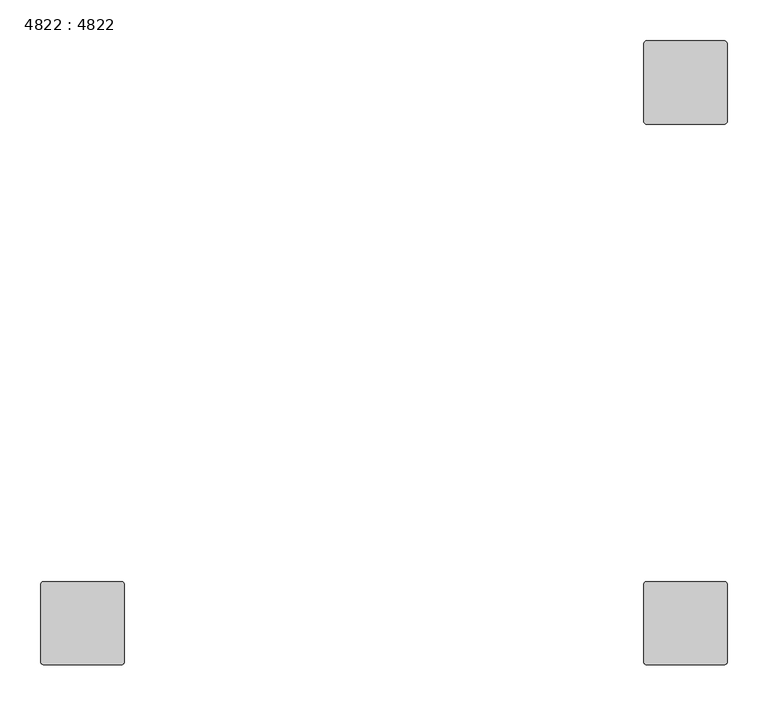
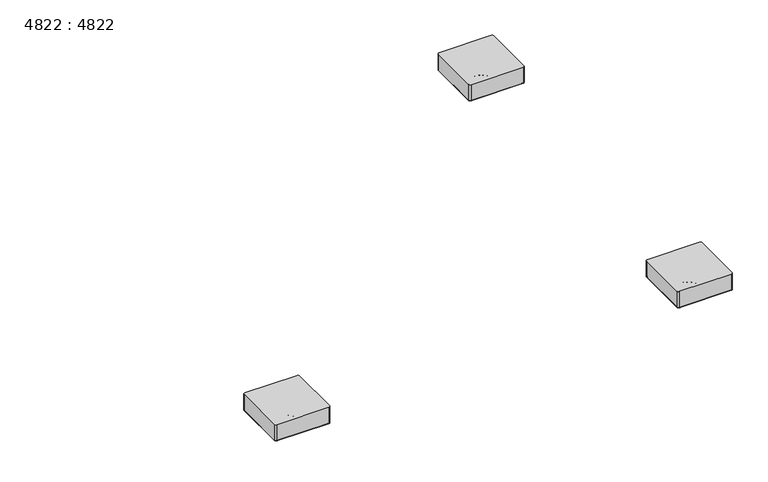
"""IFC4 building model written with IfcOpenShell, lengths in millimetres: furniture geometry, 4822 : 4822."""

from ifc_helpers import new_model, si_unit, point, frame, frame_2d, origin, place, context, project, spatial, polyline, circle_curve, ellipse_curve, trimmed, segment, composite_curve, outline, extrude, source, transform, mapped, element, save
from ifc_brep_helpers import plane_surface, cylinder_surface, revolved_surface, advanced_brep


def furniture_4822_4822_d9f68c8a(model_context):
    return source(origin(), model_context, "Body", "SolidModel", [
        advanced_brep(
        [(-320.675, -698.5, 41.5925), (-415.925, -698.5, 41.5925), (-419.1, -701.675, 41.5925), (-419.1, -796.925, 41.5925), (-415.925, -800.1, 41.5925), (-320.675, -800.1, 41.5925), (-317.5, -796.925, 41.5925), (-317.5, -701.675, 41.5925), (-417.83, -701.675, 11.1125), (-415.925, -699.77, 11.1125), (-320.675, -699.77, 11.1125), (-318.77, -701.675, 11.1125), (-318.77, -796.925, 11.1125), (-320.675, -798.83, 11.1125), (-415.925, -798.83, 11.1125), (-417.83, -796.925, 11.1125), (-320.675, -698.5, 11.1125), (-415.925, -698.5, 11.1125), (-419.1, -701.675, 11.1125), (-419.1, -796.925, 11.1125), (-415.925, -800.1, 11.1125), (-320.675, -800.1, 11.1125), (-317.5, -796.925, 11.1125), (-317.5, -701.675, 11.1125), (-415.925, -699.77, 9.8425), (-417.83, -701.675, 9.8425), (-320.675, -699.77, 9.8425), (-318.77, -701.675, 9.8425), (-318.77, -796.925, 9.8425), (-320.675, -798.83, 9.8425), (-415.925, -798.83, 9.8425), (-417.83, -796.925, 9.8425)],
        [
            (0, 1),
            (1, 2, circle_curve(frame((-415.925, -701.675, 41.5925), z_axis=(0.0, 0.0, 1.0), x_axis=(1.0, 0.0, 0.0)), 3.175)),
            (2, 3),
            (3, 4, circle_curve(frame((-415.925, -796.925, 41.5925), z_axis=(0.0, 0.0, 1.0), x_axis=(1.0, 0.0, 0.0)), 3.175)),
            (4, 5),
            (5, 6, circle_curve(frame((-320.675, -796.925, 41.5925), z_axis=(0.0, 0.0, 1.0), x_axis=(1.0, 0.0, 0.0)), 3.175)),
            (6, 7),
            (7, 0, circle_curve(frame((-320.675, -701.675, 41.5925), z_axis=(0.0, 0.0, 1.0), x_axis=(1.0, 0.0, 0.0)), 3.175)),
            (8, 9, circle_curve(frame((-415.925, -701.675, 11.1125), z_axis=(0.0, 0.0, -1.0), x_axis=(-1.0, 0.0, 0.0)), 1.905)),
            (9, 10),
            (10, 11, circle_curve(frame((-320.675, -701.675, 11.1125), z_axis=(0.0, 0.0, -1.0), x_axis=(0.0, 1.0, 0.0)), 1.905)),
            (11, 12),
            (12, 13, circle_curve(frame((-320.675, -796.925, 11.1125), z_axis=(0.0, 0.0, -1.0), x_axis=(1.0, 0.0, 0.0)), 1.905)),
            (13, 14),
            (14, 15, circle_curve(frame((-415.925, -796.925, 11.1125), z_axis=(0.0, 0.0, -1.0), x_axis=(0.0, -1.0, 0.0)), 1.905)),
            (15, 8),
            (0, 16),
            (16, 17),
            (17, 1),
            (17, 18, circle_curve(frame((-415.925, -701.675, 11.1125), z_axis=(0.0, 0.0, 1.0), x_axis=(1.0, 0.0, 0.0)), 3.175)),
            (18, 2),
            (18, 19),
            (19, 3),
            (19, 20, circle_curve(frame((-415.925, -796.925, 11.1125), z_axis=(0.0, 0.0, 1.0), x_axis=(1.0, 0.0, 0.0)), 3.175)),
            (20, 4),
            (20, 21),
            (21, 5),
            (21, 22, circle_curve(frame((-320.675, -796.925, 11.1125), z_axis=(0.0, 0.0, 1.0), x_axis=(1.0, 0.0, 0.0)), 3.175)),
            (22, 6),
            (22, 23),
            (23, 7),
            (23, 16, circle_curve(frame((-320.675, -701.675, 11.1125), z_axis=(0.0, 0.0, 1.0), x_axis=(1.0, 0.0, 0.0)), 3.175)),
            (24, 25, circle_curve(frame((-415.925, -701.675, 9.8425), z_axis=(0.0, 0.0, 1.0), x_axis=(-1.0, 0.0, 0.0)), 1.905)),
            (25, 18, circle_curve(frame((-417.83, -701.675, 11.1125), z_axis=(0.0, 1.0, 0.0), x_axis=(1.0, 0.0, 0.0)), 1.27)),
            (17, 24, circle_curve(frame((-415.925, -699.77, 11.1125), z_axis=(-1.0, 0.0, 0.0), x_axis=(0.0, -1.0, 0.0)), 1.27)),
            (16, 26, circle_curve(frame((-320.675, -699.77, 11.1125), z_axis=(-1.0, 0.0, 0.0), x_axis=(0.0, -1.0, 0.0)), 1.27)),
            (26, 24),
            (23, 27, circle_curve(frame((-318.77, -701.675, 11.1125), z_axis=(0.0, 1.0, 0.0), x_axis=(-1.0, 0.0, 0.0)), 1.27)),
            (27, 26, circle_curve(frame((-320.675, -701.675, 9.8425), z_axis=(0.0, 0.0, 1.0), x_axis=(0.0, 1.0, 0.0)), 1.905)),
            (22, 28, circle_curve(frame((-318.77, -796.925, 11.1125), z_axis=(0.0, 1.0, 0.0), x_axis=(-1.0, 0.0, 0.0)), 1.27)),
            (28, 27),
            (21, 29, circle_curve(frame((-320.675, -798.83, 11.1125), z_axis=(1.0, 0.0, 0.0), x_axis=(0.0, 1.0, 0.0)), 1.27)),
            (29, 28, circle_curve(frame((-320.675, -796.925, 9.8425), z_axis=(0.0, 0.0, 1.0), x_axis=(1.0, 0.0, 0.0)), 1.905)),
            (20, 30, circle_curve(frame((-415.925, -798.83, 11.1125), z_axis=(1.0, 0.0, 0.0), x_axis=(0.0, 1.0, 0.0)), 1.27)),
            (30, 29),
            (19, 31, circle_curve(frame((-417.83, -796.925, 11.1125), z_axis=(0.0, -1.0, 0.0), x_axis=(1.0, 0.0, 0.0)), 1.27)),
            (31, 30, circle_curve(frame((-415.925, -796.925, 9.8425), z_axis=(0.0, 0.0, 1.0), x_axis=(0.0, -1.0, 0.0)), 1.905)),
            (25, 31),
            (24, 9),
            (8, 25),
            (26, 10),
            (27, 11),
            (28, 12),
            (29, 13),
            (30, 14),
            (31, 15),
        ],
        [
            plane_surface(frame((-415.925, -698.5, 41.5925), z_axis=(0.0, 0.0, 1.0), x_axis=(-1.0, 0.0, 0.0))),
            plane_surface(frame((-415.925, -698.5, 11.1125), z_axis=(0.0, 0.0, -1.0), x_axis=(1.0, 0.0, 0.0))),
            plane_surface(frame((-320.675, -698.5, 41.5925), z_axis=(0.0, 1.0, 0.0), x_axis=(0.0, 0.0, -1.0))),
            cylinder_surface(frame((-415.925, -701.675, 11.1125), z_axis=(0.0, 0.0, 1.0), x_axis=(1.0, 0.0, 0.0)), 3.175),
            plane_surface(frame((-419.1, -701.675, 41.5925), z_axis=(-1.0, 0.0, 0.0), x_axis=(0.0, 0.0, -1.0))),
            cylinder_surface(frame((-415.925, -796.925, 11.1125), z_axis=(0.0, 0.0, 1.0), x_axis=(1.0, 0.0, 0.0)), 3.175),
            plane_surface(frame((-415.925, -800.1, 41.5925), z_axis=(0.0, -1.0, 0.0), x_axis=(0.0, 0.0, -1.0))),
            cylinder_surface(frame((-320.675, -796.925, 11.1125), z_axis=(0.0, 0.0, 1.0), x_axis=(1.0, 0.0, 0.0)), 3.175),
            plane_surface(frame((-317.5, -796.925, 41.5925), z_axis=(1.0, 0.0, 0.0), x_axis=(0.0, 0.0, -1.0))),
            cylinder_surface(frame((-320.675, -701.675, 11.1125), z_axis=(0.0, 0.0, 1.0), x_axis=(1.0, 0.0, 0.0)), 3.175),
            revolved_surface(trimmed(ellipse_curve(frame((-417.83, -701.675, 11.1125), z_axis=(0.0, -1.0, 0.0), x_axis=(1.0, 0.0, 0.0)), 1.27, 1.27), [point((-419.1, -701.675, 11.1125))], [point((-417.83, -701.675, 9.8425))], True, "CARTESIAN"), (-415.925, -701.675, 11.1125), (0.0, 0.0, -1.0)),
            cylinder_surface(frame((-415.925, -699.77, 11.1125), z_axis=(-1.0, 0.0, 0.0), x_axis=(0.0, -1.0, 0.0)), 1.27),
            revolved_surface(trimmed(ellipse_curve(frame((-320.675, -699.77, 11.1125), z_axis=(-1.0, 0.0, 0.0), x_axis=(0.0, -1.0, 0.0)), 1.27, 1.27), [point((-320.675, -698.5, 11.1125))], [point((-320.675, -699.77, 9.8425))], True, "CARTESIAN"), (-320.675, -701.675, 11.1125), (0.0, 0.0, -1.0)),
            cylinder_surface(frame((-318.77, -701.675, 11.1125), z_axis=(0.0, 1.0, 0.0), x_axis=(-1.0, 0.0, 0.0)), 1.27),
            revolved_surface(trimmed(ellipse_curve(frame((-318.77, -796.925, 11.1125), z_axis=(0.0, 1.0, 0.0), x_axis=(-1.0, 0.0, 0.0)), 1.27, 1.27), [point((-317.5, -796.925, 11.1125))], [point((-318.77, -796.925, 9.8425))], True, "CARTESIAN"), (-320.675, -796.925, 11.1125), (0.0, 0.0, -1.0)),
            cylinder_surface(frame((-320.675, -798.83, 11.1125), z_axis=(1.0, 0.0, 0.0), x_axis=(0.0, 1.0, 0.0)), 1.27),
            revolved_surface(trimmed(ellipse_curve(frame((-415.925, -798.83, 11.1125), z_axis=(1.0, 0.0, 0.0), x_axis=(0.0, 1.0, 0.0)), 1.27, 1.27), [point((-415.925, -800.1, 11.1125))], [point((-415.925, -798.83, 9.8425))], True, "CARTESIAN"), (-415.925, -796.925, 11.1125), (0.0, 0.0, -1.0)),
            cylinder_surface(frame((-417.83, -796.925, 11.1125), z_axis=(0.0, -1.0, 0.0), x_axis=(1.0, 0.0, 0.0)), 1.27),
            revolved_surface(polyline([(-417.83, -701.675, 9.8425), (-417.83, -701.675, 11.1125)]), (-415.925, -701.675, 11.1125), (0.0, 0.0, -1.0)),
            plane_surface(frame((-415.925, -699.77, 9.8425), z_axis=(0.0, -1.0, 0.0), x_axis=(1.0, 0.0, 0.0))),
            revolved_surface(polyline([(-320.675, -699.77, 9.8425), (-320.675, -699.77, 11.1125)]), (-320.675, -701.675, 11.1125), (0.0, 0.0, -1.0)),
            plane_surface(frame((-318.77, -701.675, 9.8425), z_axis=(-1.0, 0.0, 0.0), x_axis=(0.0, -1.0, 0.0))),
            revolved_surface(polyline([(-318.77000000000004, -796.925, 9.8425), (-318.77000000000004, -796.925, 11.1125)]), (-320.675, -796.925, 11.1125), (0.0, 0.0, -1.0)),
            plane_surface(frame((-320.675, -798.83, 9.8425), z_axis=(0.0, 1.0, 0.0), x_axis=(-1.0, 0.0, 0.0))),
            revolved_surface(polyline([(-415.925, -798.8299999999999, 9.8425), (-415.925, -798.8299999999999, 11.1125)]), (-415.925, -796.925, 11.1125), (0.0, 0.0, -1.0)),
            plane_surface(frame((-417.83, -796.925, 9.8425), z_axis=(1.0, 0.0, 0.0), x_axis=(0.0, 1.0, 0.0))),
        ],
        [
            (0, [[1, 2, 3, 4, 5, 6, 7, 8]]),
            (1, [[9, 10, 11, 12, 13, 14, 15, 16]]),
            (2, [[-1, 17, 18, 19]]),
            (3, [[-2, -19, 20, 21]]),
            (4, [[-3, -21, 22, 23]]),
            (5, [[-4, -23, 24, 25]]),
            (6, [[-5, -25, 26, 27]]),
            (7, [[-6, -27, 28, 29]]),
            (8, [[-7, -29, 30, 31]]),
            (9, [[-8, -31, 32, -17]]),
            (10, [[33, 34, -20, 35]]),
            (11, [[-35, -18, 36, 37]]),
            (12, [[-36, -32, 38, 39]]),
            (13, [[-38, -30, 40, 41]]),
            (14, [[-40, -28, 42, 43]]),
            (15, [[-42, -26, 44, 45]]),
            (16, [[-44, -24, 46, 47]]),
            (17, [[-34, 48, -46, -22]]),
            (18, [[-33, 49, -9, 50]]),
            (19, [[-37, 51, -10, -49]]),
            (20, [[-39, 52, -11, -51]]),
            (21, [[-41, 53, -12, -52]]),
            (22, [[-43, 54, -13, -53]]),
            (23, [[-45, 55, -14, -54]]),
            (24, [[-47, 56, -15, -55]]),
            (25, [[-48, -50, -16, -56]]),
        ],
    ),
        extrude(outline(composite_curve([segment(trimmed(circle_curve(frame_2d((-415.925, -796.925)), 1.905), [point((-415.925, -798.83))], [point((-417.83, -796.925))], False, "CARTESIAN"), True, "CONTINUOUS"), segment(polyline([(-417.83, -796.925), (-417.83, -701.675)]), True, "CONTINUOUS"), segment(trimmed(circle_curve(frame_2d((-415.925, -701.675)), 1.905), [point((-417.83, -701.675))], [point((-415.925, -699.77))], False, "CARTESIAN"), True, "CONTINUOUS"), segment(polyline([(-415.925, -699.77), (-320.675, -699.77)]), True, "CONTINUOUS"), segment(trimmed(circle_curve(frame_2d((-320.675, -701.675)), 1.905), [point((-320.675, -699.77))], [point((-318.77, -701.675))], False, "CARTESIAN"), True, "CONTINUOUS"), segment(polyline([(-318.77, -701.675), (-318.77, -796.925)]), True, "CONTINUOUS"), segment(trimmed(circle_curve(frame_2d((-320.675, -796.925)), 1.905), [point((-318.77, -796.925))], [point((-320.675, -798.83))], False, "CARTESIAN"), True, "CONTINUOUS"), segment(polyline([(-320.675, -798.83), (-415.925, -798.83)]), True, "CONTINUOUS")], self_intersect=False)), frame((0.0, 0.0, 9.8425), z_axis=(0.0, 0.0, 1.0), x_axis=(1.0, 0.0, 0.0)), (0.0, 0.0, 1.0), 1.27),
        advanced_brep(
        [(-378.4521334, -749.3, 0.0), (-358.1478666, -749.3, 0.0), (-368.3, -749.3, 0.0), (-378.7775, -749.3, 5.08), (-357.8225, -749.3, 5.08), (-378.7775, -749.3, 9.0481974), (-357.8225, -749.3, 9.0481974), (-377.9831974, -749.3, 9.8425), (-358.6168026, -749.3, 9.8425), (-368.3, -749.3, 9.8425)],
        [
            (0, 1, circle_curve(frame((-368.3, -749.3, 0.0), z_axis=(0.0, 0.0, -1.0), x_axis=(1.0, 0.0, 0.0)), 10.1521334)),
            (1, 2),
            (2, 0),
            (1, 0, circle_curve(frame((-368.3, -749.3, 0.0), z_axis=(0.0, 0.0, -1.0), x_axis=(1.0, 0.0, 0.0)), 10.1521334)),
            (3, 4, circle_curve(frame((-368.3, -749.3, 5.08), z_axis=(0.0, 0.0, -1.0), x_axis=(1.0, 0.0, 0.0)), 10.4775)),
            (4, 1, circle_curve(frame((-358.1478666, -749.3, 2.5504196), z_axis=(0.0, 1.0, 0.0), x_axis=(1.0, 0.0, 0.0)), 2.5504196)),
            (0, 3, circle_curve(frame((-378.4521334, -749.3, 2.5504196), z_axis=(0.0, 1.0, 0.0), x_axis=(-1.0, 0.0, 0.0)), 2.5504196)),
            (4, 3, circle_curve(frame((-368.3, -749.3, 5.08), z_axis=(0.0, 0.0, -1.0), x_axis=(1.0, 0.0, 0.0)), 10.4775)),
            (5, 6, circle_curve(frame((-368.3, -749.3, 9.0481974), z_axis=(0.0, 0.0, -1.0), x_axis=(1.0, 0.0, 0.0)), 10.4775)),
            (6, 4),
            (3, 5),
            (6, 5, circle_curve(frame((-368.3, -749.3, 9.0481974), z_axis=(0.0, 0.0, -1.0), x_axis=(1.0, 0.0, 0.0)), 10.4775)),
            (7, 8, circle_curve(frame((-368.3, -749.3, 9.8425), z_axis=(0.0, 0.0, -1.0), x_axis=(1.0, 0.0, 0.0)), 9.6831974)),
            (8, 6, circle_curve(frame((-358.6168026, -749.3, 9.0481974), z_axis=(0.0, 1.0, 0.0), x_axis=(1.0, 0.0, 0.0)), 0.7943026)),
            (5, 7, circle_curve(frame((-377.9831974, -749.3, 9.0481974), z_axis=(0.0, 1.0, 0.0), x_axis=(-1.0, 0.0, 0.0)), 0.7943026)),
            (8, 7, circle_curve(frame((-368.3, -749.3, 9.8425), z_axis=(0.0, 0.0, -1.0), x_axis=(1.0, 0.0, 0.0)), 9.6831974)),
            (9, 8),
            (7, 9),
        ],
        [
            plane_surface(frame((-368.3, -749.3, 0.0), z_axis=(0.0, 0.0, -1.0), x_axis=(1.0, 0.0, 0.0))),
            revolved_surface(trimmed(ellipse_curve(frame((-358.1478666, -749.3, 2.5504196), z_axis=(0.0, -1.0, 0.0), x_axis=(1.0, 0.0, 0.0)), 2.5504196, 2.5504196), [point((-358.1478666, -749.3, 0.0))], [point((-357.8225, -749.3, 5.08))], True, "CARTESIAN"), (-368.3, -749.3, 9.8425), (0.0, 0.0, 1.0)),
            cylinder_surface(frame((-368.3, -749.3, 9.8425), z_axis=(0.0, 0.0, 1.0), x_axis=(1.0, 0.0, 0.0)), 10.4775),
            revolved_surface(trimmed(ellipse_curve(frame((-358.6168026, -749.3, 9.0481974), z_axis=(0.0, -1.0, 0.0), x_axis=(1.0, 0.0, 0.0)), 0.7943026, 0.7943026), [point((-357.8225, -749.3, 9.0481974))], [point((-358.6168026, -749.3, 9.8425))], True, "CARTESIAN"), (-368.3, -749.3, 9.8425), (0.0, 0.0, 1.0)),
            plane_surface(frame((-368.3, -749.3, 9.8425), z_axis=(0.0, 0.0, 1.0), x_axis=(1.0, 0.0, 0.0))),
        ],
        [
            (0, [[1, 2, 3]]),
            (0, [[4, -3, -2]]),
            (1, [[5, 6, -1, 7]]),
            (1, [[8, -7, -4, -6]]),
            (2, [[9, 10, -5, 11]]),
            (2, [[12, -11, -8, -10]]),
            (3, [[13, 14, -9, 15]]),
            (3, [[16, -15, -12, -14]]),
            (4, [[17, -13, 18]]),
            (4, [[-18, -16, -17]]),
        ],
    ),
        advanced_brep(
        [(415.925, -698.5, 41.5925), (320.675, -698.5, 41.5925), (317.5, -701.675, 41.5925), (317.5, -796.925, 41.5925), (320.675, -800.1, 41.5925), (415.925, -800.1, 41.5925), (419.1, -796.925, 41.5925), (419.1, -701.675, 41.5925), (318.77, -701.675, 11.1125), (320.675, -699.77, 11.1125), (415.925, -699.77, 11.1125), (417.83, -701.675, 11.1125), (417.83, -796.925, 11.1125), (415.925, -798.83, 11.1125), (320.675, -798.83, 11.1125), (318.77, -796.925, 11.1125), (415.925, -698.5, 11.1125), (320.675, -698.5, 11.1125), (317.5, -701.675, 11.1125), (317.5, -796.925, 11.1125), (320.675, -800.1, 11.1125), (415.925, -800.1, 11.1125), (419.1, -796.925, 11.1125), (419.1, -701.675, 11.1125), (320.675, -699.77, 9.8425), (318.77, -701.675, 9.8425), (415.925, -699.77, 9.8425), (417.83, -701.675, 9.8425), (417.83, -796.925, 9.8425), (415.925, -798.83, 9.8425), (320.675, -798.83, 9.8425), (318.77, -796.925, 9.8425)],
        [
            (0, 1),
            (1, 2, circle_curve(frame((320.675, -701.675, 41.5925), z_axis=(0.0, 0.0, 1.0), x_axis=(1.0, 0.0, 0.0)), 3.175)),
            (2, 3),
            (3, 4, circle_curve(frame((320.675, -796.925, 41.5925), z_axis=(0.0, 0.0, 1.0), x_axis=(1.0, 0.0, 0.0)), 3.175)),
            (4, 5),
            (5, 6, circle_curve(frame((415.925, -796.925, 41.5925), z_axis=(0.0, 0.0, 1.0), x_axis=(1.0, 0.0, 0.0)), 3.175)),
            (6, 7),
            (7, 0, circle_curve(frame((415.925, -701.675, 41.5925), z_axis=(0.0, 0.0, 1.0), x_axis=(1.0, 0.0, 0.0)), 3.175)),
            (8, 9, circle_curve(frame((320.675, -701.675, 11.1125), z_axis=(0.0, 0.0, -1.0), x_axis=(-1.0, 0.0, 0.0)), 1.905)),
            (9, 10),
            (10, 11, circle_curve(frame((415.925, -701.675, 11.1125), z_axis=(0.0, 0.0, -1.0), x_axis=(0.0, 1.0, 0.0)), 1.905)),
            (11, 12),
            (12, 13, circle_curve(frame((415.925, -796.925, 11.1125), z_axis=(0.0, 0.0, -1.0), x_axis=(1.0, 0.0, 0.0)), 1.905)),
            (13, 14),
            (14, 15, circle_curve(frame((320.675, -796.925, 11.1125), z_axis=(0.0, 0.0, -1.0), x_axis=(0.0, -1.0, 0.0)), 1.905)),
            (15, 8),
            (0, 16),
            (16, 17),
            (17, 1),
            (17, 18, circle_curve(frame((320.675, -701.675, 11.1125), z_axis=(0.0, 0.0, 1.0), x_axis=(1.0, 0.0, 0.0)), 3.175)),
            (18, 2),
            (18, 19),
            (19, 3),
            (19, 20, circle_curve(frame((320.675, -796.925, 11.1125), z_axis=(0.0, 0.0, 1.0), x_axis=(1.0, 0.0, 0.0)), 3.175)),
            (20, 4),
            (20, 21),
            (21, 5),
            (21, 22, circle_curve(frame((415.925, -796.925, 11.1125), z_axis=(0.0, 0.0, 1.0), x_axis=(1.0, 0.0, 0.0)), 3.175)),
            (22, 6),
            (22, 23),
            (23, 7),
            (23, 16, circle_curve(frame((415.925, -701.675, 11.1125), z_axis=(0.0, 0.0, 1.0), x_axis=(1.0, 0.0, 0.0)), 3.175)),
            (24, 25, circle_curve(frame((320.675, -701.675, 9.8425), z_axis=(0.0, 0.0, 1.0), x_axis=(-1.0, 0.0, 0.0)), 1.905)),
            (25, 18, circle_curve(frame((318.77, -701.675, 11.1125), z_axis=(0.0, 1.0, 0.0), x_axis=(1.0, 0.0, 0.0)), 1.27)),
            (17, 24, circle_curve(frame((320.675, -699.77, 11.1125), z_axis=(-1.0, 0.0, 0.0), x_axis=(0.0, -1.0, 0.0)), 1.27)),
            (16, 26, circle_curve(frame((415.925, -699.77, 11.1125), z_axis=(-1.0, 0.0, 0.0), x_axis=(0.0, -1.0, 0.0)), 1.27)),
            (26, 24),
            (23, 27, circle_curve(frame((417.83, -701.675, 11.1125), z_axis=(0.0, 1.0, 0.0), x_axis=(-1.0, 0.0, 0.0)), 1.27)),
            (27, 26, circle_curve(frame((415.925, -701.675, 9.8425), z_axis=(0.0, 0.0, 1.0), x_axis=(0.0, 1.0, 0.0)), 1.905)),
            (22, 28, circle_curve(frame((417.83, -796.925, 11.1125), z_axis=(0.0, 1.0, 0.0), x_axis=(-1.0, 0.0, 0.0)), 1.27)),
            (28, 27),
            (21, 29, circle_curve(frame((415.925, -798.83, 11.1125), z_axis=(1.0, 0.0, 0.0), x_axis=(0.0, 1.0, 0.0)), 1.27)),
            (29, 28, circle_curve(frame((415.925, -796.925, 9.8425), z_axis=(0.0, 0.0, 1.0), x_axis=(1.0, 0.0, 0.0)), 1.905)),
            (20, 30, circle_curve(frame((320.675, -798.83, 11.1125), z_axis=(1.0, 0.0, 0.0), x_axis=(0.0, 1.0, 0.0)), 1.27)),
            (30, 29),
            (19, 31, circle_curve(frame((318.77, -796.925, 11.1125), z_axis=(0.0, -1.0, 0.0), x_axis=(1.0, 0.0, 0.0)), 1.27)),
            (31, 30, circle_curve(frame((320.675, -796.925, 9.8425), z_axis=(0.0, 0.0, 1.0), x_axis=(0.0, -1.0, 0.0)), 1.905)),
            (25, 31),
            (24, 9),
            (8, 25),
            (26, 10),
            (27, 11),
            (28, 12),
            (29, 13),
            (30, 14),
            (31, 15),
        ],
        [
            plane_surface(frame((320.675, -698.5, 41.5925), z_axis=(0.0, 0.0, 1.0), x_axis=(-1.0, 0.0, 0.0))),
            plane_surface(frame((320.675, -698.5, 11.1125), z_axis=(0.0, 0.0, -1.0), x_axis=(1.0, 0.0, 0.0))),
            plane_surface(frame((415.925, -698.5, 41.5925), z_axis=(0.0, 1.0, 0.0), x_axis=(0.0, 0.0, -1.0))),
            cylinder_surface(frame((320.675, -701.675, 11.1125), z_axis=(0.0, 0.0, 1.0), x_axis=(1.0, 0.0, 0.0)), 3.175),
            plane_surface(frame((317.5, -701.675, 41.5925), z_axis=(-1.0, 0.0, 0.0), x_axis=(0.0, 0.0, -1.0))),
            cylinder_surface(frame((320.675, -796.925, 11.1125), z_axis=(0.0, 0.0, 1.0), x_axis=(1.0, 0.0, 0.0)), 3.175),
            plane_surface(frame((320.675, -800.1, 41.5925), z_axis=(0.0, -1.0, 0.0), x_axis=(0.0, 0.0, -1.0))),
            cylinder_surface(frame((415.925, -796.925, 11.1125), z_axis=(0.0, 0.0, 1.0), x_axis=(1.0, 0.0, 0.0)), 3.175),
            plane_surface(frame((419.1, -796.925, 41.5925), z_axis=(1.0, 0.0, 0.0), x_axis=(0.0, 0.0, -1.0))),
            cylinder_surface(frame((415.925, -701.675, 11.1125), z_axis=(0.0, 0.0, 1.0), x_axis=(1.0, 0.0, 0.0)), 3.175),
            revolved_surface(trimmed(ellipse_curve(frame((318.77, -701.675, 11.1125), z_axis=(0.0, -1.0, 0.0), x_axis=(1.0, 0.0, 0.0)), 1.27, 1.27), [point((317.5, -701.675, 11.1125))], [point((318.77, -701.675, 9.8425))], True, "CARTESIAN"), (320.675, -701.675, 11.1125), (0.0, 0.0, -1.0)),
            cylinder_surface(frame((320.675, -699.77, 11.1125), z_axis=(-1.0, 0.0, 0.0), x_axis=(0.0, -1.0, 0.0)), 1.27),
            revolved_surface(trimmed(ellipse_curve(frame((415.925, -699.77, 11.1125), z_axis=(-1.0, 0.0, 0.0), x_axis=(0.0, -1.0, 0.0)), 1.27, 1.27), [point((415.925, -698.5, 11.1125))], [point((415.925, -699.77, 9.8425))], True, "CARTESIAN"), (415.925, -701.675, 11.1125), (0.0, 0.0, -1.0)),
            cylinder_surface(frame((417.83, -701.675, 11.1125), z_axis=(0.0, 1.0, 0.0), x_axis=(-1.0, 0.0, 0.0)), 1.27),
            revolved_surface(trimmed(ellipse_curve(frame((417.83, -796.925, 11.1125), z_axis=(0.0, 1.0, 0.0), x_axis=(-1.0, 0.0, 0.0)), 1.27, 1.27), [point((419.1, -796.925, 11.1125))], [point((417.83, -796.925, 9.8425))], True, "CARTESIAN"), (415.925, -796.925, 11.1125), (0.0, 0.0, -1.0)),
            cylinder_surface(frame((415.925, -798.83, 11.1125), z_axis=(1.0, 0.0, 0.0), x_axis=(0.0, 1.0, 0.0)), 1.27),
            revolved_surface(trimmed(ellipse_curve(frame((320.675, -798.83, 11.1125), z_axis=(1.0, 0.0, 0.0), x_axis=(0.0, 1.0, 0.0)), 1.27, 1.27), [point((320.675, -800.1, 11.1125))], [point((320.675, -798.83, 9.8425))], True, "CARTESIAN"), (320.675, -796.925, 11.1125), (0.0, 0.0, -1.0)),
            cylinder_surface(frame((318.77, -796.925, 11.1125), z_axis=(0.0, -1.0, 0.0), x_axis=(1.0, 0.0, 0.0)), 1.27),
            revolved_surface(polyline([(318.77000000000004, -701.675, 9.8425), (318.77000000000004, -701.675, 11.1125)]), (320.675, -701.675, 11.1125), (0.0, 0.0, -1.0)),
            plane_surface(frame((320.675, -699.77, 9.8425), z_axis=(0.0, -1.0, 0.0), x_axis=(1.0, 0.0, 0.0))),
            revolved_surface(polyline([(415.925, -699.77, 9.8425), (415.925, -699.77, 11.1125)]), (415.925, -701.675, 11.1125), (0.0, 0.0, -1.0)),
            plane_surface(frame((417.83, -701.675, 9.8425), z_axis=(-1.0, 0.0, 0.0), x_axis=(0.0, -1.0, 0.0))),
            revolved_surface(polyline([(417.83, -796.925, 9.8425), (417.83, -796.925, 11.1125)]), (415.925, -796.925, 11.1125), (0.0, 0.0, -1.0)),
            plane_surface(frame((415.925, -798.83, 9.8425), z_axis=(0.0, 1.0, 0.0), x_axis=(-1.0, 0.0, 0.0))),
            revolved_surface(polyline([(320.675, -798.8299999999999, 9.8425), (320.675, -798.8299999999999, 11.1125)]), (320.675, -796.925, 11.1125), (0.0, 0.0, -1.0)),
            plane_surface(frame((318.77, -796.925, 9.8425), z_axis=(1.0, 0.0, 0.0), x_axis=(0.0, 1.0, 0.0))),
        ],
        [
            (0, [[1, 2, 3, 4, 5, 6, 7, 8]]),
            (1, [[9, 10, 11, 12, 13, 14, 15, 16]]),
            (2, [[-1, 17, 18, 19]]),
            (3, [[-2, -19, 20, 21]]),
            (4, [[-3, -21, 22, 23]]),
            (5, [[-4, -23, 24, 25]]),
            (6, [[-5, -25, 26, 27]]),
            (7, [[-6, -27, 28, 29]]),
            (8, [[-7, -29, 30, 31]]),
            (9, [[-8, -31, 32, -17]]),
            (10, [[33, 34, -20, 35]]),
            (11, [[-35, -18, 36, 37]]),
            (12, [[-36, -32, 38, 39]]),
            (13, [[-38, -30, 40, 41]]),
            (14, [[-40, -28, 42, 43]]),
            (15, [[-42, -26, 44, 45]]),
            (16, [[-44, -24, 46, 47]]),
            (17, [[-34, 48, -46, -22]]),
            (18, [[-33, 49, -9, 50]]),
            (19, [[-37, 51, -10, -49]]),
            (20, [[-39, 52, -11, -51]]),
            (21, [[-41, 53, -12, -52]]),
            (22, [[-43, 54, -13, -53]]),
            (23, [[-45, 55, -14, -54]]),
            (24, [[-47, 56, -15, -55]]),
            (25, [[-48, -50, -16, -56]]),
        ],
    ),
        extrude(outline(composite_curve([segment(trimmed(circle_curve(frame_2d((320.675, -796.925)), 1.905), [point((320.675, -798.83))], [point((318.77, -796.925))], False, "CARTESIAN"), True, "CONTINUOUS"), segment(polyline([(318.77, -796.925), (318.77, -701.675)]), True, "CONTINUOUS"), segment(trimmed(circle_curve(frame_2d((320.675, -701.675)), 1.905), [point((318.77, -701.675))], [point((320.675, -699.77))], False, "CARTESIAN"), True, "CONTINUOUS"), segment(polyline([(320.675, -699.77), (415.925, -699.77)]), True, "CONTINUOUS"), segment(trimmed(circle_curve(frame_2d((415.925, -701.675)), 1.905), [point((415.925, -699.77))], [point((417.83, -701.675))], False, "CARTESIAN"), True, "CONTINUOUS"), segment(polyline([(417.83, -701.675), (417.83, -796.925)]), True, "CONTINUOUS"), segment(trimmed(circle_curve(frame_2d((415.925, -796.925)), 1.905), [point((417.83, -796.925))], [point((415.925, -798.83))], False, "CARTESIAN"), True, "CONTINUOUS"), segment(polyline([(415.925, -798.83), (320.675, -798.83)]), True, "CONTINUOUS")], self_intersect=False)), frame((0.0, 0.0, 9.8425), z_axis=(0.0, 0.0, 1.0), x_axis=(1.0, 0.0, 0.0)), (0.0, 0.0, 1.0), 1.27),
        advanced_brep(
        [(358.1478666, -749.3, 0.0), (378.4521334, -749.3, 0.0), (368.3, -749.3, 0.0), (357.8225, -749.3, 5.08), (378.7775, -749.3, 5.08), (357.8225, -749.3, 9.0481974), (378.7775, -749.3, 9.0481974), (358.6168026, -749.3, 9.8425), (377.9831974, -749.3, 9.8425), (368.3, -749.3, 9.8425)],
        [
            (0, 1, circle_curve(frame((368.3, -749.3, 0.0), z_axis=(0.0, 0.0, -1.0), x_axis=(1.0, 0.0, 0.0)), 10.1521334)),
            (1, 2),
            (2, 0),
            (1, 0, circle_curve(frame((368.3, -749.3, 0.0), z_axis=(0.0, 0.0, -1.0), x_axis=(1.0, 0.0, 0.0)), 10.1521334)),
            (3, 4, circle_curve(frame((368.3, -749.3, 5.08), z_axis=(0.0, 0.0, -1.0), x_axis=(1.0, 0.0, 0.0)), 10.4775)),
            (4, 1, circle_curve(frame((378.4521334, -749.3, 2.5504196), z_axis=(0.0, 1.0, 0.0), x_axis=(1.0, 0.0, 0.0)), 2.5504196)),
            (0, 3, circle_curve(frame((358.1478666, -749.3, 2.5504196), z_axis=(0.0, 1.0, 0.0), x_axis=(-1.0, 0.0, 0.0)), 2.5504196)),
            (4, 3, circle_curve(frame((368.3, -749.3, 5.08), z_axis=(0.0, 0.0, -1.0), x_axis=(1.0, 0.0, 0.0)), 10.4775)),
            (5, 6, circle_curve(frame((368.3, -749.3, 9.0481974), z_axis=(0.0, 0.0, -1.0), x_axis=(1.0, 0.0, 0.0)), 10.4775)),
            (6, 4),
            (3, 5),
            (6, 5, circle_curve(frame((368.3, -749.3, 9.0481974), z_axis=(0.0, 0.0, -1.0), x_axis=(1.0, 0.0, 0.0)), 10.4775)),
            (7, 8, circle_curve(frame((368.3, -749.3, 9.8425), z_axis=(0.0, 0.0, -1.0), x_axis=(1.0, 0.0, 0.0)), 9.6831974)),
            (8, 6, circle_curve(frame((377.9831974, -749.3, 9.0481974), z_axis=(0.0, 1.0, 0.0), x_axis=(1.0, 0.0, 0.0)), 0.7943026)),
            (5, 7, circle_curve(frame((358.6168026, -749.3, 9.0481974), z_axis=(0.0, 1.0, 0.0), x_axis=(-1.0, 0.0, 0.0)), 0.7943026)),
            (8, 7, circle_curve(frame((368.3, -749.3, 9.8425), z_axis=(0.0, 0.0, -1.0), x_axis=(1.0, 0.0, 0.0)), 9.6831974)),
            (9, 8),
            (7, 9),
        ],
        [
            plane_surface(frame((368.3, -749.3, 0.0), z_axis=(0.0, 0.0, -1.0), x_axis=(1.0, 0.0, 0.0))),
            revolved_surface(trimmed(ellipse_curve(frame((378.4521334, -749.3, 2.5504196), z_axis=(0.0, -1.0, 0.0), x_axis=(1.0, 0.0, 0.0)), 2.5504196, 2.5504196), [point((378.4521334, -749.3, 0.0))], [point((378.7775, -749.3, 5.08))], True, "CARTESIAN"), (368.3, -749.3, 9.8425), (0.0, 0.0, 1.0)),
            cylinder_surface(frame((368.3, -749.3, 9.8425), z_axis=(0.0, 0.0, 1.0), x_axis=(1.0, 0.0, 0.0)), 10.4775),
            revolved_surface(trimmed(ellipse_curve(frame((377.9831974, -749.3, 9.0481974), z_axis=(0.0, -1.0, 0.0), x_axis=(1.0, 0.0, 0.0)), 0.7943026, 0.7943026), [point((378.7775, -749.3, 9.0481974))], [point((377.9831974, -749.3, 9.8425))], True, "CARTESIAN"), (368.3, -749.3, 9.8425), (0.0, 0.0, 1.0)),
            plane_surface(frame((368.3, -749.3, 9.8425), z_axis=(0.0, 0.0, 1.0), x_axis=(1.0, 0.0, 0.0))),
        ],
        [
            (0, [[1, 2, 3]]),
            (0, [[4, -3, -2]]),
            (1, [[5, 6, -1, 7]]),
            (1, [[8, -7, -4, -6]]),
            (2, [[9, 10, -5, 11]]),
            (2, [[12, -11, -8, -10]]),
            (3, [[13, 14, -9, 15]]),
            (3, [[16, -15, -12, -14]]),
            (4, [[17, -13, 18]]),
            (4, [[-18, -16, -17]]),
        ],
    ),
        advanced_brep(
        [(415.925, -38.1, 41.5925), (320.675, -38.1, 41.5925), (317.5, -41.275, 41.5925), (317.5, -136.525, 41.5925), (320.675, -139.7, 41.5925), (415.925, -139.7, 41.5925), (419.1, -136.525, 41.5925), (419.1, -41.275, 41.5925), (318.77, -41.275, 11.1125), (320.675, -39.37, 11.1125), (415.925, -39.37, 11.1125), (417.83, -41.275, 11.1125), (417.83, -136.525, 11.1125), (415.925, -138.43, 11.1125), (320.675, -138.43, 11.1125), (318.77, -136.525, 11.1125), (415.925, -38.1, 11.1125), (320.675, -38.1, 11.1125), (317.5, -41.275, 11.1125), (317.5, -136.525, 11.1125), (320.675, -139.7, 11.1125), (415.925, -139.7, 11.1125), (419.1, -136.525, 11.1125), (419.1, -41.275, 11.1125), (320.675, -39.37, 9.8425), (318.77, -41.275, 9.8425), (415.925, -39.37, 9.8425), (417.83, -41.275, 9.8425), (417.83, -136.525, 9.8425), (415.925, -138.43, 9.8425), (320.675, -138.43, 9.8425), (318.77, -136.525, 9.8425)],
        [
            (0, 1),
            (1, 2, circle_curve(frame((320.675, -41.275, 41.5925), z_axis=(0.0, 0.0, 1.0), x_axis=(1.0, 0.0, 0.0)), 3.175)),
            (2, 3),
            (3, 4, circle_curve(frame((320.675, -136.525, 41.5925), z_axis=(0.0, 0.0, 1.0), x_axis=(1.0, 0.0, 0.0)), 3.175)),
            (4, 5),
            (5, 6, circle_curve(frame((415.925, -136.525, 41.5925), z_axis=(0.0, 0.0, 1.0), x_axis=(1.0, 0.0, 0.0)), 3.175)),
            (6, 7),
            (7, 0, circle_curve(frame((415.925, -41.275, 41.5925), z_axis=(0.0, 0.0, 1.0), x_axis=(1.0, 0.0, 0.0)), 3.175)),
            (8, 9, circle_curve(frame((320.675, -41.275, 11.1125), z_axis=(0.0, 0.0, -1.0), x_axis=(-1.0, 0.0, 0.0)), 1.905)),
            (9, 10),
            (10, 11, circle_curve(frame((415.925, -41.275, 11.1125), z_axis=(0.0, 0.0, -1.0), x_axis=(0.0, 1.0, 0.0)), 1.905)),
            (11, 12),
            (12, 13, circle_curve(frame((415.925, -136.525, 11.1125), z_axis=(0.0, 0.0, -1.0), x_axis=(1.0, 0.0, 0.0)), 1.905)),
            (13, 14),
            (14, 15, circle_curve(frame((320.675, -136.525, 11.1125), z_axis=(0.0, 0.0, -1.0), x_axis=(0.0, -1.0, 0.0)), 1.905)),
            (15, 8),
            (0, 16),
            (16, 17),
            (17, 1),
            (17, 18, circle_curve(frame((320.675, -41.275, 11.1125), z_axis=(0.0, 0.0, 1.0), x_axis=(1.0, 0.0, 0.0)), 3.175)),
            (18, 2),
            (18, 19),
            (19, 3),
            (19, 20, circle_curve(frame((320.675, -136.525, 11.1125), z_axis=(0.0, 0.0, 1.0), x_axis=(1.0, 0.0, 0.0)), 3.175)),
            (20, 4),
            (20, 21),
            (21, 5),
            (21, 22, circle_curve(frame((415.925, -136.525, 11.1125), z_axis=(0.0, 0.0, 1.0), x_axis=(1.0, 0.0, 0.0)), 3.175)),
            (22, 6),
            (22, 23),
            (23, 7),
            (23, 16, circle_curve(frame((415.925, -41.275, 11.1125), z_axis=(0.0, 0.0, 1.0), x_axis=(1.0, 0.0, 0.0)), 3.175)),
            (24, 25, circle_curve(frame((320.675, -41.275, 9.8425), z_axis=(0.0, 0.0, 1.0), x_axis=(-1.0, 0.0, 0.0)), 1.905)),
            (25, 18, circle_curve(frame((318.77, -41.275, 11.1125), z_axis=(0.0, 1.0, 0.0), x_axis=(1.0, 0.0, 0.0)), 1.27)),
            (17, 24, circle_curve(frame((320.675, -39.37, 11.1125), z_axis=(-1.0, 0.0, 0.0), x_axis=(0.0, -1.0, 0.0)), 1.27)),
            (16, 26, circle_curve(frame((415.925, -39.37, 11.1125), z_axis=(-1.0, 0.0, 0.0), x_axis=(0.0, -1.0, 0.0)), 1.27)),
            (26, 24),
            (23, 27, circle_curve(frame((417.83, -41.275, 11.1125), z_axis=(0.0, 1.0, 0.0), x_axis=(-1.0, 0.0, 0.0)), 1.27)),
            (27, 26, circle_curve(frame((415.925, -41.275, 9.8425), z_axis=(0.0, 0.0, 1.0), x_axis=(0.0, 1.0, 0.0)), 1.905)),
            (22, 28, circle_curve(frame((417.83, -136.525, 11.1125), z_axis=(0.0, 1.0, 0.0), x_axis=(-1.0, 0.0, 0.0)), 1.27)),
            (28, 27),
            (21, 29, circle_curve(frame((415.925, -138.43, 11.1125), z_axis=(1.0, 0.0, 0.0), x_axis=(0.0, 1.0, 0.0)), 1.27)),
            (29, 28, circle_curve(frame((415.925, -136.525, 9.8425), z_axis=(0.0, 0.0, 1.0), x_axis=(1.0, 0.0, 0.0)), 1.905)),
            (20, 30, circle_curve(frame((320.675, -138.43, 11.1125), z_axis=(1.0, 0.0, 0.0), x_axis=(0.0, 1.0, 0.0)), 1.27)),
            (30, 29),
            (19, 31, circle_curve(frame((318.77, -136.525, 11.1125), z_axis=(0.0, -1.0, 0.0), x_axis=(1.0, 0.0, 0.0)), 1.27)),
            (31, 30, circle_curve(frame((320.675, -136.525, 9.8425), z_axis=(0.0, 0.0, 1.0), x_axis=(0.0, -1.0, 0.0)), 1.905)),
            (25, 31),
            (24, 9),
            (8, 25),
            (26, 10),
            (27, 11),
            (28, 12),
            (29, 13),
            (30, 14),
            (31, 15),
        ],
        [
            plane_surface(frame((320.675, -38.1, 41.5925), z_axis=(0.0, 0.0, 1.0), x_axis=(-1.0, 0.0, 0.0))),
            plane_surface(frame((320.675, -38.1, 11.1125), z_axis=(0.0, 0.0, -1.0), x_axis=(1.0, 0.0, 0.0))),
            plane_surface(frame((415.925, -38.1, 41.5925), z_axis=(0.0, 1.0, 0.0), x_axis=(0.0, 0.0, -1.0))),
            cylinder_surface(frame((320.675, -41.275, 11.1125), z_axis=(0.0, 0.0, 1.0), x_axis=(1.0, 0.0, 0.0)), 3.175),
            plane_surface(frame((317.5, -41.275, 41.5925), z_axis=(-1.0, 0.0, 0.0), x_axis=(0.0, 0.0, -1.0))),
            cylinder_surface(frame((320.675, -136.525, 11.1125), z_axis=(0.0, 0.0, 1.0), x_axis=(1.0, 0.0, 0.0)), 3.175),
            plane_surface(frame((320.675, -139.7, 41.5925), z_axis=(0.0, -1.0, 0.0), x_axis=(0.0, 0.0, -1.0))),
            cylinder_surface(frame((415.925, -136.525, 11.1125), z_axis=(0.0, 0.0, 1.0), x_axis=(1.0, 0.0, 0.0)), 3.175),
            plane_surface(frame((419.1, -136.525, 41.5925), z_axis=(1.0, 0.0, 0.0), x_axis=(0.0, 0.0, -1.0))),
            cylinder_surface(frame((415.925, -41.275, 11.1125), z_axis=(0.0, 0.0, 1.0), x_axis=(1.0, 0.0, 0.0)), 3.175),
            revolved_surface(trimmed(ellipse_curve(frame((318.77, -41.275, 11.1125), z_axis=(0.0, -1.0, 0.0), x_axis=(1.0, 0.0, 0.0)), 1.27, 1.27), [point((317.5, -41.275, 11.1125))], [point((318.77, -41.275, 9.8425))], True, "CARTESIAN"), (320.675, -41.275, 11.1125), (0.0, 0.0, -1.0)),
            cylinder_surface(frame((320.675, -39.37, 11.1125), z_axis=(-1.0, 0.0, 0.0), x_axis=(0.0, -1.0, 0.0)), 1.27),
            revolved_surface(trimmed(ellipse_curve(frame((415.925, -39.37, 11.1125), z_axis=(-1.0, 0.0, 0.0), x_axis=(0.0, -1.0, 0.0)), 1.27, 1.27), [point((415.925, -38.1, 11.1125))], [point((415.925, -39.37, 9.8425))], True, "CARTESIAN"), (415.925, -41.275, 11.1125), (0.0, 0.0, -1.0)),
            cylinder_surface(frame((417.83, -41.275, 11.1125), z_axis=(0.0, 1.0, 0.0), x_axis=(-1.0, 0.0, 0.0)), 1.27),
            revolved_surface(trimmed(ellipse_curve(frame((417.83, -136.525, 11.1125), z_axis=(0.0, 1.0, 0.0), x_axis=(-1.0, 0.0, 0.0)), 1.27, 1.27), [point((419.1, -136.525, 11.1125))], [point((417.83, -136.525, 9.8425))], True, "CARTESIAN"), (415.925, -136.525, 11.1125), (0.0, 0.0, -1.0)),
            cylinder_surface(frame((415.925, -138.43, 11.1125), z_axis=(1.0, 0.0, 0.0), x_axis=(0.0, 1.0, 0.0)), 1.27),
            revolved_surface(trimmed(ellipse_curve(frame((320.675, -138.43, 11.1125), z_axis=(1.0, 0.0, 0.0), x_axis=(0.0, 1.0, 0.0)), 1.27, 1.27), [point((320.675, -139.7, 11.1125))], [point((320.675, -138.43, 9.8425))], True, "CARTESIAN"), (320.675, -136.525, 11.1125), (0.0, 0.0, -1.0)),
            cylinder_surface(frame((318.77, -136.525, 11.1125), z_axis=(0.0, -1.0, 0.0), x_axis=(1.0, 0.0, 0.0)), 1.27),
            revolved_surface(polyline([(318.77000000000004, -41.275, 9.8425), (318.77000000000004, -41.275, 11.1125)]), (320.675, -41.275, 11.1125), (0.0, 0.0, -1.0)),
            plane_surface(frame((320.675, -39.37, 9.8425), z_axis=(0.0, -1.0, 0.0), x_axis=(1.0, 0.0, 0.0))),
            revolved_surface(polyline([(415.925, -39.37, 9.8425), (415.925, -39.37, 11.1125)]), (415.925, -41.275, 11.1125), (0.0, 0.0, -1.0)),
            plane_surface(frame((417.83, -41.275, 9.8425), z_axis=(-1.0, 0.0, 0.0), x_axis=(0.0, -1.0, 0.0))),
            revolved_surface(polyline([(417.83, -136.525, 9.8425), (417.83, -136.525, 11.1125)]), (415.925, -136.525, 11.1125), (0.0, 0.0, -1.0)),
            plane_surface(frame((415.925, -138.43, 9.8425), z_axis=(0.0, 1.0, 0.0), x_axis=(-1.0, 0.0, 0.0))),
            revolved_surface(polyline([(320.675, -138.43, 9.8425), (320.675, -138.43, 11.1125)]), (320.675, -136.525, 11.1125), (0.0, 0.0, -1.0)),
            plane_surface(frame((318.77, -136.525, 9.8425), z_axis=(1.0, 0.0, 0.0), x_axis=(0.0, 1.0, 0.0))),
        ],
        [
            (0, [[1, 2, 3, 4, 5, 6, 7, 8]]),
            (1, [[9, 10, 11, 12, 13, 14, 15, 16]]),
            (2, [[-1, 17, 18, 19]]),
            (3, [[-2, -19, 20, 21]]),
            (4, [[-3, -21, 22, 23]]),
            (5, [[-4, -23, 24, 25]]),
            (6, [[-5, -25, 26, 27]]),
            (7, [[-6, -27, 28, 29]]),
            (8, [[-7, -29, 30, 31]]),
            (9, [[-8, -31, 32, -17]]),
            (10, [[33, 34, -20, 35]]),
            (11, [[-35, -18, 36, 37]]),
            (12, [[-36, -32, 38, 39]]),
            (13, [[-38, -30, 40, 41]]),
            (14, [[-40, -28, 42, 43]]),
            (15, [[-42, -26, 44, 45]]),
            (16, [[-44, -24, 46, 47]]),
            (17, [[-34, 48, -46, -22]]),
            (18, [[-33, 49, -9, 50]]),
            (19, [[-37, 51, -10, -49]]),
            (20, [[-39, 52, -11, -51]]),
            (21, [[-41, 53, -12, -52]]),
            (22, [[-43, 54, -13, -53]]),
            (23, [[-45, 55, -14, -54]]),
            (24, [[-47, 56, -15, -55]]),
            (25, [[-48, -50, -16, -56]]),
        ],
    ),
        extrude(outline(composite_curve([segment(trimmed(circle_curve(frame_2d((320.675, -136.525)), 1.905), [point((320.675, -138.43))], [point((318.77, -136.525))], False, "CARTESIAN"), True, "CONTINUOUS"), segment(polyline([(318.77, -136.525), (318.77, -41.275)]), True, "CONTINUOUS"), segment(trimmed(circle_curve(frame_2d((320.675, -41.275)), 1.905), [point((318.77, -41.275))], [point((320.675, -39.37))], False, "CARTESIAN"), True, "CONTINUOUS"), segment(polyline([(320.675, -39.37), (415.925, -39.37)]), True, "CONTINUOUS"), segment(trimmed(circle_curve(frame_2d((415.925, -41.275)), 1.905), [point((415.925, -39.37))], [point((417.83, -41.275))], False, "CARTESIAN"), True, "CONTINUOUS"), segment(polyline([(417.83, -41.275), (417.83, -136.525)]), True, "CONTINUOUS"), segment(trimmed(circle_curve(frame_2d((415.925, -136.525)), 1.905), [point((417.83, -136.525))], [point((415.925, -138.43))], False, "CARTESIAN"), True, "CONTINUOUS"), segment(polyline([(415.925, -138.43), (320.675, -138.43)]), True, "CONTINUOUS")], self_intersect=False)), frame((0.0, 0.0, 9.8425), z_axis=(0.0, 0.0, 1.0), x_axis=(1.0, 0.0, 0.0)), (0.0, 0.0, 1.0), 1.27),
        advanced_brep(
        [(358.1478666, -88.9, 0.0), (378.4521334, -88.9, 0.0), (368.3, -88.9, 0.0), (357.8225, -88.9, 5.08), (378.7775, -88.9, 5.08), (357.8225, -88.9, 9.0481974), (378.7775, -88.9, 9.0481974), (358.6168026, -88.9, 9.8425), (377.9831974, -88.9, 9.8425), (368.3, -88.9, 9.8425)],
        [
            (0, 1, circle_curve(frame((368.3, -88.9, 0.0), z_axis=(0.0, 0.0, -1.0), x_axis=(1.0, 0.0, 0.0)), 10.1521334)),
            (1, 2),
            (2, 0),
            (1, 0, circle_curve(frame((368.3, -88.9, 0.0), z_axis=(0.0, 0.0, -1.0), x_axis=(1.0, 0.0, 0.0)), 10.1521334)),
            (3, 4, circle_curve(frame((368.3, -88.9, 5.08), z_axis=(0.0, 0.0, -1.0), x_axis=(1.0, 0.0, 0.0)), 10.4775)),
            (4, 1, circle_curve(frame((378.4521334, -88.9, 2.5504196), z_axis=(0.0, 1.0, 0.0), x_axis=(1.0, 0.0, 0.0)), 2.5504196)),
            (0, 3, circle_curve(frame((358.1478666, -88.9, 2.5504196), z_axis=(0.0, 1.0, 0.0), x_axis=(-1.0, 0.0, 0.0)), 2.5504196)),
            (4, 3, circle_curve(frame((368.3, -88.9, 5.08), z_axis=(0.0, 0.0, -1.0), x_axis=(1.0, 0.0, 0.0)), 10.4775)),
            (5, 6, circle_curve(frame((368.3, -88.9, 9.0481974), z_axis=(0.0, 0.0, -1.0), x_axis=(1.0, 0.0, 0.0)), 10.4775)),
            (6, 4),
            (3, 5),
            (6, 5, circle_curve(frame((368.3, -88.9, 9.0481974), z_axis=(0.0, 0.0, -1.0), x_axis=(1.0, 0.0, 0.0)), 10.4775)),
            (7, 8, circle_curve(frame((368.3, -88.9, 9.8425), z_axis=(0.0, 0.0, -1.0), x_axis=(1.0, 0.0, 0.0)), 9.6831974)),
            (8, 6, circle_curve(frame((377.9831974, -88.9, 9.0481974), z_axis=(0.0, 1.0, 0.0), x_axis=(1.0, 0.0, 0.0)), 0.7943026)),
            (5, 7, circle_curve(frame((358.6168026, -88.9, 9.0481974), z_axis=(0.0, 1.0, 0.0), x_axis=(-1.0, 0.0, 0.0)), 0.7943026)),
            (8, 7, circle_curve(frame((368.3, -88.9, 9.8425), z_axis=(0.0, 0.0, -1.0), x_axis=(1.0, 0.0, 0.0)), 9.6831974)),
            (9, 8),
            (7, 9),
        ],
        [
            plane_surface(frame((368.3, -88.9, 0.0), z_axis=(0.0, 0.0, -1.0), x_axis=(1.0, 0.0, 0.0))),
            revolved_surface(trimmed(ellipse_curve(frame((378.4521334, -88.9, 2.5504196), z_axis=(0.0, -1.0, 0.0), x_axis=(1.0, 0.0, 0.0)), 2.5504196, 2.5504196), [point((378.4521334, -88.9, 0.0))], [point((378.7775, -88.9, 5.08))], True, "CARTESIAN"), (368.3, -88.9, 9.8425), (0.0, 0.0, 1.0)),
            cylinder_surface(frame((368.3, -88.9, 9.8425), z_axis=(0.0, 0.0, 1.0), x_axis=(1.0, 0.0, 0.0)), 10.4775),
            revolved_surface(trimmed(ellipse_curve(frame((377.9831974, -88.9, 9.0481974), z_axis=(0.0, -1.0, 0.0), x_axis=(1.0, 0.0, 0.0)), 0.7943026, 0.7943026), [point((378.7775, -88.9, 9.0481974))], [point((377.9831974, -88.9, 9.8425))], True, "CARTESIAN"), (368.3, -88.9, 9.8425), (0.0, 0.0, 1.0)),
            plane_surface(frame((368.3, -88.9, 9.8425), z_axis=(0.0, 0.0, 1.0), x_axis=(1.0, 0.0, 0.0))),
        ],
        [
            (0, [[1, 2, 3]]),
            (0, [[4, -3, -2]]),
            (1, [[5, 6, -1, 7]]),
            (1, [[8, -7, -4, -6]]),
            (2, [[9, 10, -5, 11]]),
            (2, [[12, -11, -8, -10]]),
            (3, [[13, 14, -9, 15]]),
            (3, [[16, -15, -12, -14]]),
            (4, [[17, -13, 18]]),
            (4, [[-18, -16, -17]]),
        ],
    ),
    ])


if __name__ == "__main__":
    model = new_model("IFC4")
    model_context = context("Model", 3, world=origin())
    ifc_project = project(units=[si_unit("LENGTHUNIT", "METRE", prefix="MILLI")], contexts=[model_context])
    site = spatial("IfcSite", under=ifc_project)
    building = spatial("IfcBuilding", under=site)
    placement = place(None, origin())
    furniture_4822_4822_shape = furniture_4822_4822_d9f68c8a(model_context)
    element("IfcFurniture", 1, ObjectType="4822 : 4822", at=placement, inside=building, context=model_context, shape_type="MappedRepresentation", body=[
        mapped(furniture_4822_4822_shape, transform((0.0, 0.0, 0.0), x_axis=(1.0, 0.0, 0.0), y_axis=(0.0, 1.0, 0.0), z_axis=(0.0, 0.0, 1.0))),
    ])
    save(model, "model.ifc")
